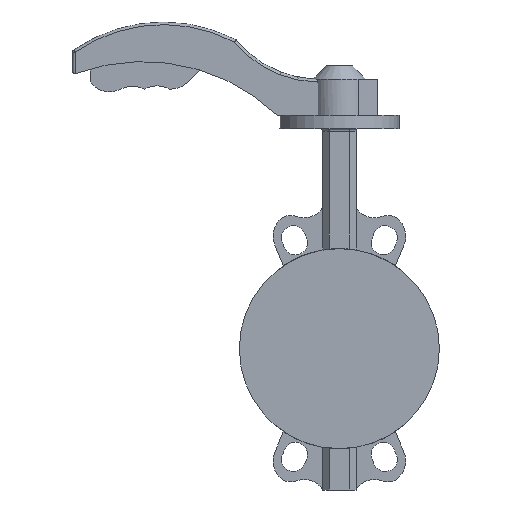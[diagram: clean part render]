
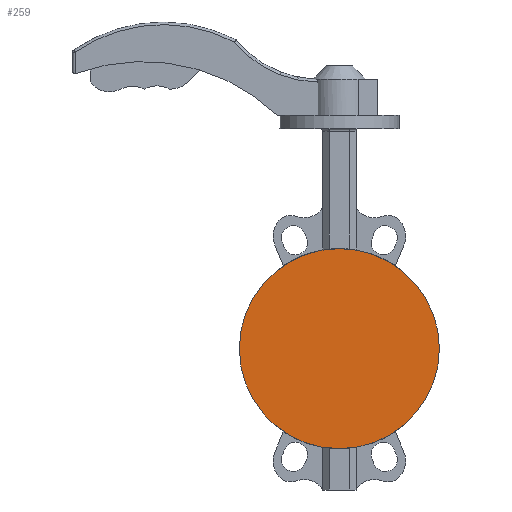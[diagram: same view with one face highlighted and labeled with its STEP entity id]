
A CAD part, left-side view. The second image highlights one B-rep face of the part: STEP entity #259.
In plain terms, the highlighted planar face has unit normal (-1, 0, 0).
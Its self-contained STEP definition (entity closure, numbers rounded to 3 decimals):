
#163=CIRCLE('',#2076,75.);
#259=ADVANCED_FACE('',(#432),#371,.T.);
#371=PLANE('',#2089);
#432=FACE_OUTER_BOUND('',#537,.T.);
#537=EDGE_LOOP('',(#734));
#734=ORIENTED_EDGE('',*,*,#1470,.T.);
#1270=VERTEX_POINT('',#3003);
#1470=EDGE_CURVE('',#1270,#1270,#163,.T.);
#2076=AXIS2_PLACEMENT_3D('',#3002,#2360,#2361);
#2089=AXIS2_PLACEMENT_3D('',#3038,#2392,#2393);
#2360=DIRECTION('',(-1.,0.,0.));
#2361=DIRECTION('',(0.,0.,1.));
#2392=DIRECTION('',(-1.,0.,0.));
#2393=DIRECTION('',(0.,0.,1.));
#3002=CARTESIAN_POINT('',(0.,0.,0.));
#3003=CARTESIAN_POINT('',(0.,0.,75.));
#3038=CARTESIAN_POINT('',(0.,0.,0.));
